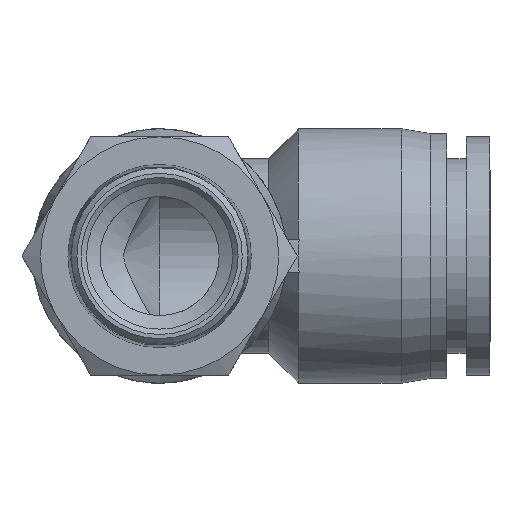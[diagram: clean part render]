
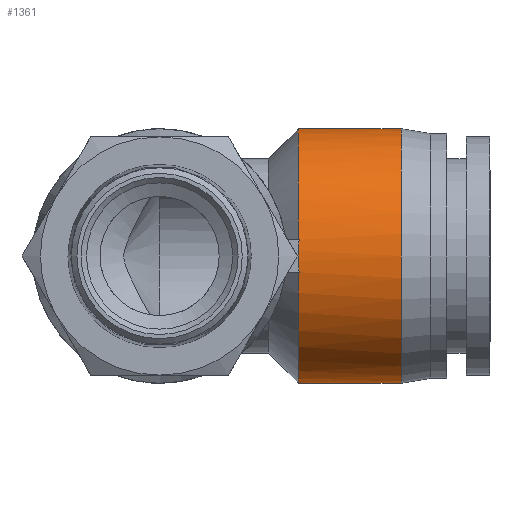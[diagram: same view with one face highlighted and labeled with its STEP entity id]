
A CAD part, front view. The second image highlights one B-rep face of the part: STEP entity #1361.
In plain terms, the highlighted cylindrical face has radius 11.75 mm (diameter 23.5 mm), a full revolution.
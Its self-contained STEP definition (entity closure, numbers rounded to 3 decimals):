
#141=CARTESIAN_POINT('',(12.881,-11.654,1.5));
#142=VERTEX_POINT('',#141);
#143=CARTESIAN_POINT('',(12.881,-11.654,-1.5));
#144=VERTEX_POINT('',#143);
#145=CARTESIAN_POINT('',(22.67,0.0,0.0));
#146=DIRECTION('',(0.766,-0.643,0.0));
#147=DIRECTION('',(0.643,0.766,0.0));
#148=AXIS2_PLACEMENT_3D('',#145,#146,#147);
#149=ELLIPSE('',#148,15.345,11.75);
#150=EDGE_CURVE('',#142,#144,#149,.T.);
#183=CARTESIAN_POINT('',(12.8,-11.654,1.5));
#184=VERTEX_POINT('',#183);
#185=CARTESIAN_POINT('',(12.8,-11.654,1.5));
#186=DIRECTION('',(1.0,0.0,0.0));
#187=VECTOR('',#186,0.081);
#188=LINE('',#185,#187);
#189=EDGE_CURVE('',#184,#142,#188,.T.);
#252=CARTESIAN_POINT('',(12.8,-11.654,-1.5));
#253=VERTEX_POINT('',#252);
#254=CARTESIAN_POINT('',(12.881,-11.654,-1.5));
#255=DIRECTION('',(-1.0,0.0,0.0));
#256=VECTOR('',#255,0.081);
#257=LINE('',#254,#256);
#258=EDGE_CURVE('',#144,#253,#257,.T.);
#1329=CARTESIAN_POINT('',(12.8,0.0,0.0));
#1330=DIRECTION('',(1.0,0.0,0.0));
#1331=DIRECTION('',(0.0,1.0,0.0));
#1332=AXIS2_PLACEMENT_3D('',#1329,#1330,#1331);
#1333=CIRCLE('',#1332,11.75);
#1334=EDGE_CURVE('',#253,#184,#1333,.T.);
#1339=CARTESIAN_POINT('',(17.55,0.0,0.0));
#1340=DIRECTION('',(1.0,0.0,0.0));
#1341=DIRECTION('',(0.0,1.0,0.0));
#1342=AXIS2_PLACEMENT_3D('',#1339,#1340,#1341);
#1343=CYLINDRICAL_SURFACE('',#1342,11.75);
#1344=ORIENTED_EDGE('',*,*,#258,.T.);
#1345=ORIENTED_EDGE('',*,*,#1334,.T.);
#1346=ORIENTED_EDGE('',*,*,#189,.T.);
#1347=ORIENTED_EDGE('',*,*,#150,.T.);
#1348=EDGE_LOOP('',(#1344,#1345,#1346,#1347));
#1349=FACE_OUTER_BOUND('',#1348,.T.);
#1350=CARTESIAN_POINT('',(22.3,11.75,0.0));
#1351=VERTEX_POINT('',#1350);
#1352=CARTESIAN_POINT('',(22.3,0.0,0.0));
#1353=DIRECTION('',(1.0,0.0,0.0));
#1354=DIRECTION('',(0.0,1.0,0.0));
#1355=AXIS2_PLACEMENT_3D('',#1352,#1353,#1354);
#1356=CIRCLE('',#1355,11.75);
#1357=EDGE_CURVE('',#1351,#1351,#1356,.T.);
#1358=ORIENTED_EDGE('',*,*,#1357,.F.);
#1359=EDGE_LOOP('',(#1358));
#1360=FACE_BOUND('',#1359,.T.);
#1361=ADVANCED_FACE('',(#1349,#1360),#1343,.T.);
